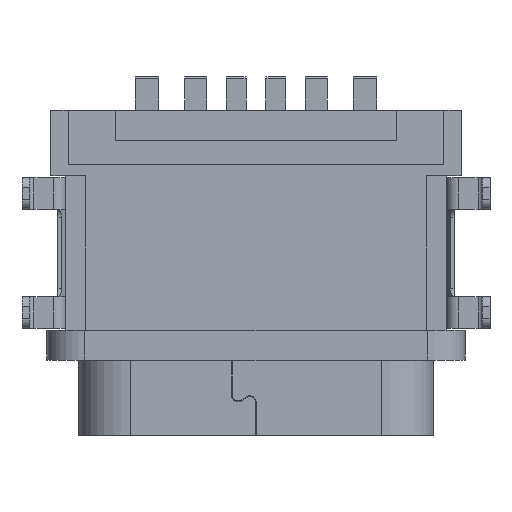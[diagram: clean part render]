
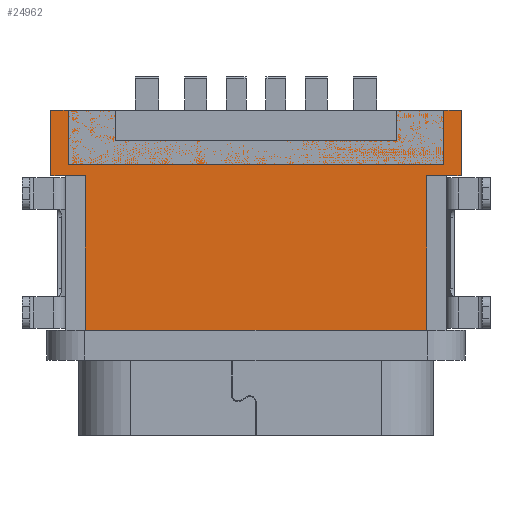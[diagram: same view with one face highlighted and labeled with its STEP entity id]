
A CAD part, front view. The second image highlights one B-rep face of the part: STEP entity #24962.
In plain terms, the highlighted planar face has unit normal (0, -1, 0).
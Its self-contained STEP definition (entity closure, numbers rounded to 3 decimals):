
#23936=DIRECTION('',(0.,0.,1.));
#23937=VECTOR('',#23936,1.65);
#23938=CARTESIAN_POINT('',(9.83,-2.23,6.325));
#23939=LINE('',#23938,#23937);
#23940=DIRECTION('',(0.,0.,-1.));
#23941=VECTOR('',#23940,3.9);
#23942=CARTESIAN_POINT('',(19.3,-2.23,6.325));
#23943=LINE('',#23942,#23941);
#23944=DIRECTION('',(-1.,0.,0.));
#23945=VECTOR('',#23944,8.6);
#23946=CARTESIAN_POINT('',(19.3,-2.23,2.425));
#23947=LINE('',#23946,#23945);
#23948=DIRECTION('',(0.,0.,1.));
#23949=VECTOR('',#23948,3.9);
#23950=CARTESIAN_POINT('',(10.7,-2.23,2.425));
#23951=LINE('',#23950,#23949);
#23952=DIRECTION('',(1.,0.,0.));
#23953=VECTOR('',#23952,1.62);
#23954=CARTESIAN_POINT('',(9.83,-2.23,7.975));
#23955=LINE('',#23954,#23953);
#23956=DIRECTION('',(0.,0.,1.));
#23957=VECTOR('',#23956,0.775);
#23958=CARTESIAN_POINT('',(18.55,-2.23,7.2));
#23959=LINE('',#23958,#23957);
#23960=DIRECTION('',(1.,0.,0.));
#23961=VECTOR('',#23960,1.62);
#23962=CARTESIAN_POINT('',(18.55,-2.23,7.975));
#23963=LINE('',#23962,#23961);
#24340=DIRECTION('',(-1.,0.,0.));
#24341=VECTOR('',#24340,0.87);
#24342=CARTESIAN_POINT('',(10.7,-2.23,6.325));
#24343=LINE('',#24342,#24341);
#24382=DIRECTION('',(-1.,0.,0.));
#24383=VECTOR('',#24382,0.87);
#24384=CARTESIAN_POINT('',(20.17,-2.23,6.325));
#24385=LINE('',#24384,#24383);
#24394=DIRECTION('',(0.,0.,-1.));
#24395=VECTOR('',#24394,1.65);
#24396=CARTESIAN_POINT('',(20.17,-2.23,7.975));
#24397=LINE('',#24396,#24395);
#24514=DIRECTION('',(0.,0.,-1.));
#24515=VECTOR('',#24514,0.775);
#24516=CARTESIAN_POINT('',(11.45,-2.23,7.975));
#24517=LINE('',#24516,#24515);
#24530=DIRECTION('',(1.,0.,0.));
#24531=VECTOR('',#24530,7.1);
#24532=CARTESIAN_POINT('',(11.45,-2.23,7.2));
#24533=LINE('',#24532,#24531);
#24729=CARTESIAN_POINT('',(11.45,-2.23,7.2));
#24730=CARTESIAN_POINT('',(18.55,-2.23,7.2));
#24731=VERTEX_POINT('',#24729);
#24732=VERTEX_POINT('',#24730);
#24733=CARTESIAN_POINT('',(20.17,-2.23,6.325));
#24734=CARTESIAN_POINT('',(19.3,-2.23,6.325));
#24735=VERTEX_POINT('',#24733);
#24736=VERTEX_POINT('',#24734);
#24737=CARTESIAN_POINT('',(10.7,-2.23,6.325));
#24738=CARTESIAN_POINT('',(9.83,-2.23,6.325));
#24739=VERTEX_POINT('',#24737);
#24740=VERTEX_POINT('',#24738);
#24741=CARTESIAN_POINT('',(18.55,-2.23,7.975));
#24742=CARTESIAN_POINT('',(20.17,-2.23,7.975));
#24743=VERTEX_POINT('',#24741);
#24744=VERTEX_POINT('',#24742);
#24745=CARTESIAN_POINT('',(9.83,-2.23,7.975));
#24746=CARTESIAN_POINT('',(11.45,-2.23,7.975));
#24747=VERTEX_POINT('',#24745);
#24748=VERTEX_POINT('',#24746);
#24749=CARTESIAN_POINT('',(10.7,-2.23,2.425));
#24750=VERTEX_POINT('',#24749);
#24751=CARTESIAN_POINT('',(19.3,-2.23,2.425));
#24752=VERTEX_POINT('',#24751);
#24935=CARTESIAN_POINT('',(15.,-2.23,4.95));
#24936=DIRECTION('',(0.,1.,0.));
#24937=DIRECTION('',(1.,0.,0.));
#24938=AXIS2_PLACEMENT_3D('',#24935,#24936,#24937);
#24939=PLANE('',#24938);
#24941=ORIENTED_EDGE('',*,*,#24940,.T.);
#24943=ORIENTED_EDGE('',*,*,#24942,.T.);
#24945=ORIENTED_EDGE('',*,*,#24944,.T.);
#24947=ORIENTED_EDGE('',*,*,#24946,.T.);
#24948=ORIENTED_EDGE('',*,*,#24928,.T.);
#24949=ORIENTED_EDGE('',*,*,#24867,.T.);
#24951=ORIENTED_EDGE('',*,*,#24950,.T.);
#24953=ORIENTED_EDGE('',*,*,#24952,.T.);
#24954=ORIENTED_EDGE('',*,*,#24842,.T.);
#24955=ORIENTED_EDGE('',*,*,#24860,.T.);
#24957=ORIENTED_EDGE('',*,*,#24956,.T.);
#24959=ORIENTED_EDGE('',*,*,#24958,.T.);
#24960=EDGE_LOOP('',(#24941,#24943,#24945,#24947,#24948,#24949,#24951,#24953,
#24954,#24955,#24957,#24959));
#24961=FACE_OUTER_BOUND('',#24960,.F.);
#24962=ADVANCED_FACE('',(#24961),#24939,.F.);
#24842=EDGE_CURVE('',#24732,#24743,#23959,.T.);
#24860=EDGE_CURVE('',#24743,#24744,#23963,.T.);
#24867=EDGE_CURVE('',#24747,#24748,#23955,.T.);
#24928=EDGE_CURVE('',#24740,#24747,#23939,.T.);
#24940=EDGE_CURVE('',#24736,#24752,#23943,.T.);
#24942=EDGE_CURVE('',#24752,#24750,#23947,.T.);
#24944=EDGE_CURVE('',#24750,#24739,#23951,.T.);
#24946=EDGE_CURVE('',#24739,#24740,#24343,.T.);
#24950=EDGE_CURVE('',#24748,#24731,#24517,.T.);
#24952=EDGE_CURVE('',#24731,#24732,#24533,.T.);
#24956=EDGE_CURVE('',#24744,#24735,#24397,.T.);
#24958=EDGE_CURVE('',#24735,#24736,#24385,.T.);
